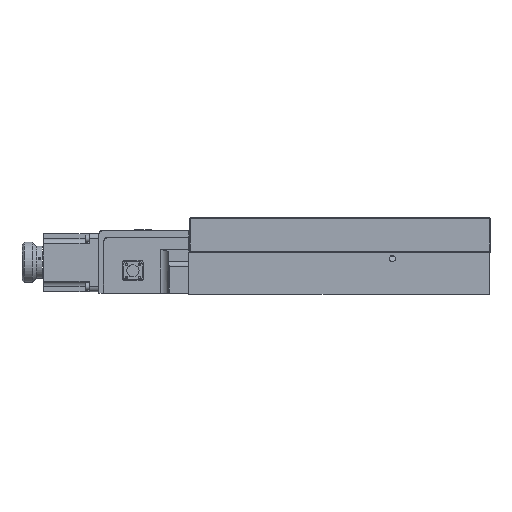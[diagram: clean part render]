
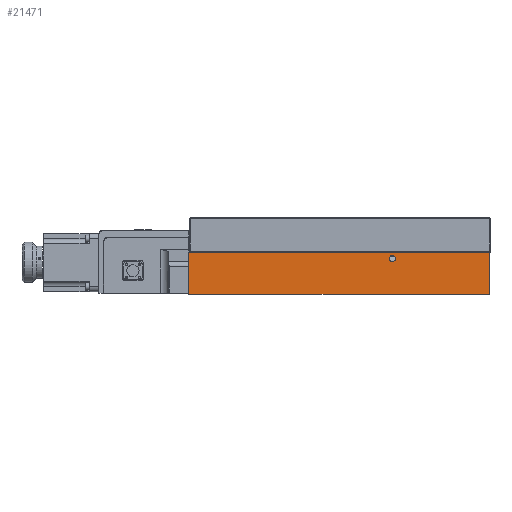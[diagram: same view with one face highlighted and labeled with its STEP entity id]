
A CAD part, front view. The second image highlights one B-rep face of the part: STEP entity #21471.
In plain terms, the highlighted planar face has unit normal (0, -1, 0).
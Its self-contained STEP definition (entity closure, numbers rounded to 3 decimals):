
#455 = VERTEX_POINT ( 'NONE', #17896 ) ;
#751 = DIRECTION ( 'NONE',  ( 0., 0., -1. ) ) ;
#779 = EDGE_LOOP ( 'NONE', ( #16485, #21413, #5775, #17670 ) ) ;
#787 = EDGE_CURVE ( 'NONE', #16775, #455, #5938, .T. ) ;
#889 = EDGE_CURVE ( 'NONE', #6249, #4051, #1185, .T. ) ;
#1185 = LINE ( 'NONE', #22794, #20034 ) ;
#1762 = EDGE_CURVE ( 'NONE', #6249, #4475, #6453, .T. ) ;
#1947 = AXIS2_PLACEMENT_3D ( 'NONE', #18497, #18710, #11347 ) ;
#2318 = DIRECTION ( 'NONE',  ( 0., 1., 0. ) ) ;
#2508 = FACE_OUTER_BOUND ( 'NONE', #779, .T. ) ;
#3675 = EDGE_CURVE ( 'NONE', #4051, #6052, #8799, .T. ) ;
#3679 = CARTESIAN_POINT ( 'NONE',  ( -147.5, -90., 40.5 ) ) ;
#4051 = VERTEX_POINT ( 'NONE', #3679 ) ;
#4103 = PLANE ( 'NONE',  #21039 ) ;
#4282 = DIRECTION ( 'NONE',  ( 1., 0., 0. ) ) ;
#4475 = VERTEX_POINT ( 'NONE', #16689 ) ;
#4695 = LINE ( 'NONE', #22544, #6373 ) ;
#5775 = ORIENTED_EDGE ( 'NONE', *, *, #3675, .T. ) ;
#5892 = DIRECTION ( 'NONE',  ( -1., 0., 0. ) ) ;
#5938 = CIRCLE ( 'NONE', #6207, 3. ) ;
#6052 = VERTEX_POINT ( 'NONE', #13560 ) ;
#6129 = FACE_BOUND ( 'NONE', #8530, .T. ) ;
#6207 = AXIS2_PLACEMENT_3D ( 'NONE', #16634, #15058, #4282 ) ;
#6246 = CARTESIAN_POINT ( 'NONE',  ( 147.5, -90., 55. ) ) ;
#6249 = VERTEX_POINT ( 'NONE', #7349 ) ;
#6373 = VECTOR ( 'NONE', #18856, 1000. ) ;
#6453 = LINE ( 'NONE', #6246, #20552 ) ;
#7349 = CARTESIAN_POINT ( 'NONE',  ( 147.5, -90., 40.5 ) ) ;
#8126 = DIRECTION ( 'NONE',  ( 0., 0., -1. ) ) ;
#8530 = EDGE_LOOP ( 'NONE', ( #12733, #17391 ) ) ;
#8799 = LINE ( 'NONE', #16853, #17447 ) ;
#8903 = CIRCLE ( 'NONE', #1947, 3. ) ;
#10824 = CARTESIAN_POINT ( 'NONE',  ( 49.5, -90., 35. ) ) ;
#11347 = DIRECTION ( 'NONE',  ( 1., 0., 0. ) ) ;
#12733 = ORIENTED_EDGE ( 'NONE', *, *, #20404, .F. ) ;
#13560 = CARTESIAN_POINT ( 'NONE',  ( -147.5, -90., 0. ) ) ;
#15058 = DIRECTION ( 'NONE',  ( 0., -1., 0. ) ) ;
#15701 = DIRECTION ( 'NONE',  ( -1., 0., 0. ) ) ;
#16438 = CARTESIAN_POINT ( 'NONE',  ( 147.5, -90., 55. ) ) ;
#16485 = ORIENTED_EDGE ( 'NONE', *, *, #1762, .F. ) ;
#16634 = CARTESIAN_POINT ( 'NONE',  ( 52.5, -90., 35. ) ) ;
#16689 = CARTESIAN_POINT ( 'NONE',  ( 147.5, -90., 0. ) ) ;
#16775 = VERTEX_POINT ( 'NONE', #10824 ) ;
#16853 = CARTESIAN_POINT ( 'NONE',  ( -147.5, -90., 55. ) ) ;
#17391 = ORIENTED_EDGE ( 'NONE', *, *, #787, .F. ) ;
#17447 = VECTOR ( 'NONE', #8126, 1000. ) ;
#17670 = ORIENTED_EDGE ( 'NONE', *, *, #22275, .T. ) ;
#17896 = CARTESIAN_POINT ( 'NONE',  ( 55.5, -90., 35. ) ) ;
#18497 = CARTESIAN_POINT ( 'NONE',  ( 52.5, -90., 35. ) ) ;
#18710 = DIRECTION ( 'NONE',  ( 0., -1., 0. ) ) ;
#18856 = DIRECTION ( 'NONE',  ( 1., 0., 0. ) ) ;
#20034 = VECTOR ( 'NONE', #15701, 1000. ) ;
#20404 = EDGE_CURVE ( 'NONE', #455, #16775, #8903, .T. ) ;
#20552 = VECTOR ( 'NONE', #751, 1000. ) ;
#21039 = AXIS2_PLACEMENT_3D ( 'NONE', #16438, #2318, #5892 ) ;
#21413 = ORIENTED_EDGE ( 'NONE', *, *, #889, .T. ) ;
#21471 = ADVANCED_FACE ( 'NONE', ( #6129, #2508 ), #4103, .F. ) ;
#22275 = EDGE_CURVE ( 'NONE', #6052, #4475, #4695, .T. ) ;
#22544 = CARTESIAN_POINT ( 'NONE',  ( 147.5, -90., 0. ) ) ;
#22794 = CARTESIAN_POINT ( 'NONE',  ( 147.5, -90., 40.5 ) ) ;
